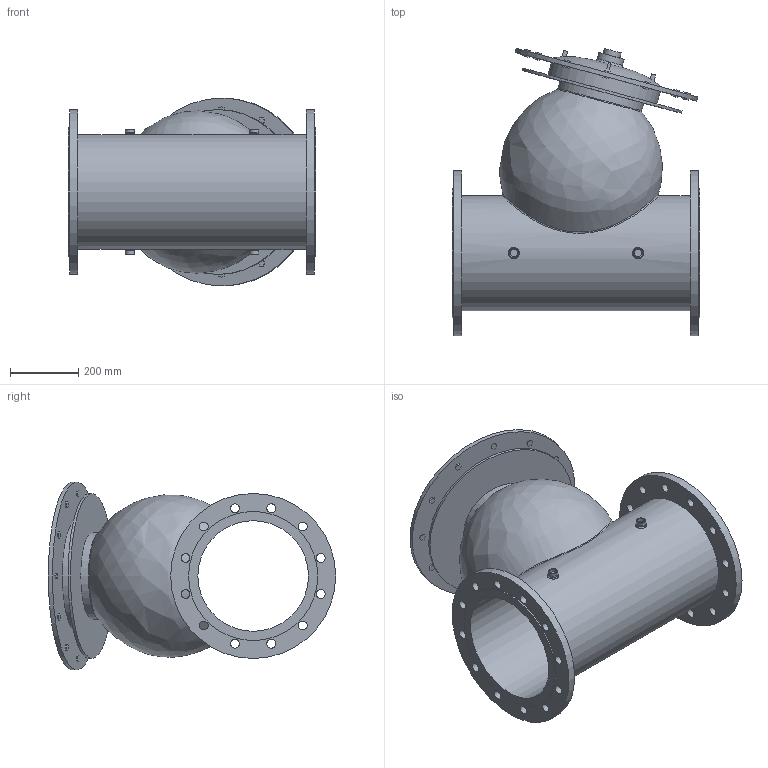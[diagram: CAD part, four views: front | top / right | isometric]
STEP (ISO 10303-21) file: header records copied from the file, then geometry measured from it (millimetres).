
FILE_DESCRIPTION(/* description */ ('VIC FP VALVE PRESSURE RELIEF SERIES 867-7UF (PN16)','CAx-IF Rec.Pracs.---Representation and Presentation of Product Manufacturing Information (PMI)---4.0---2014-10-13'),/* implementation_level */ '2;1');
FILE_NAME(/* name */ 'C:\Series 867-7UF\Series 867-7UF final\pn16\step\Victaulic_FP-Bermad_Valve Pressure Relief_Series 867-7UF (PN16)\Victaulic_FP-Bermad_Valve Pressure Relief_Series 867-7UF (PN16)_12 (300).stp',/* time_stamp */ '2021-09-02T19:17:21+06:00',/* author */ ('kkamble'),/* organization */ ('Victaulic'),/* preprocessor_version */ 'ST-DEVELOPER v17.2',/* originating_system */ 'Autodesk Inventor 2019',/* authorisation */ '');
FILE_SCHEMA (('AP242_MANAGED_MODEL_BASED_3D_ENGINEERING_MIM_LF { 1 0 10303 442 1 1 4 }'));
Length unit declared in the file: inch
Products named in the file (1): 867-7UF-12.0
Bounding box: 724.92 x 841.24 x 550.16 mm (x, y, z)
Volume: 66097922.1 mm3; surface area: 3050587 mm2
Topology: 1 solids, 1 shells, 261 faces, 665 edges, 451 vertices
Faces by surface type: plane 208, cylinder 44, bspline 7, torus 2
Full cylindrical faces by diameter (mm): 21.336 x4, 26 x24, 26.873 x4, 50.8 x1, 76.2 x1, 254 x1, 323.85 x1, 330.2 x1, 336.55 x1, 378 x2, 482.6 x1, 483.108 x2, 550.164 x1
Entity records: 9279 total; most frequent: CARTESIAN_POINT 2378, ORIENTED_EDGE 1338, DIRECTION 1290, EDGE_CURVE 669, LINE 512, VECTOR 512, VERTEX_POINT 455, AXIS2_PLACEMENT_3D 389
